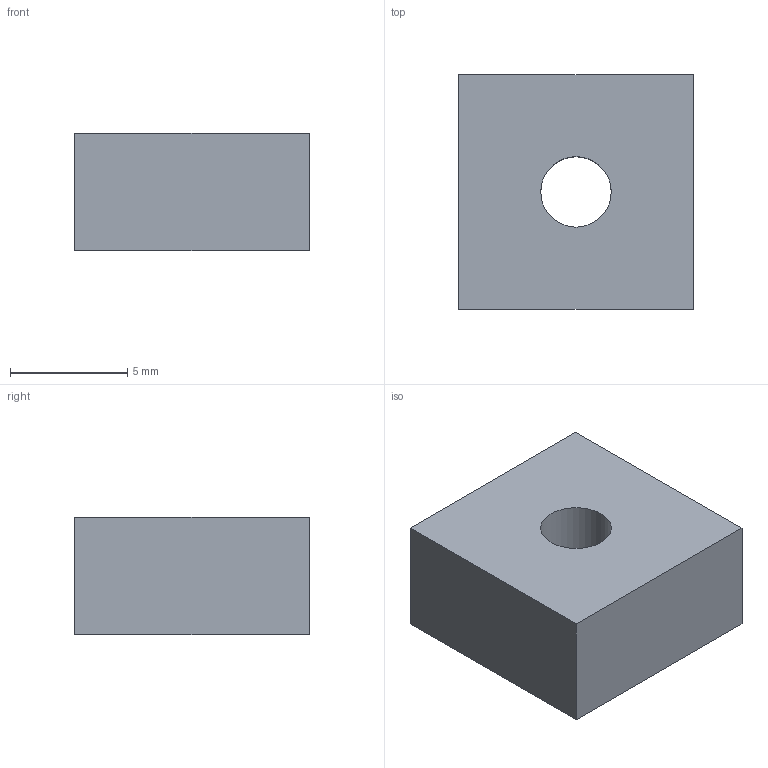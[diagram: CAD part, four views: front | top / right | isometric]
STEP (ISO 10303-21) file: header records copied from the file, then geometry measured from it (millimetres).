
FILE_DESCRIPTION( ( 'STEP AP203' ), '1' );
FILE_NAME( 'C:/NSM-06-3.stp', '2013-10-20T23:50:13', ( ' ' ), ( ' ' ), 'XStep 1.0', ' ', ' ' );
FILE_SCHEMA( ( 'CONFIG_CONTROL_DESIGN' ) );
Length unit declared in the file: metre
Products named in the file (1): 1
Bounding box: 10 x 10 x 5 mm (x, y, z)
Volume: 464.4 mm3; surface area: 433.1 mm2
Topology: 1 solids, 1 shells, 7 faces, 15 edges, 10 vertices
Faces by surface type: bspline 7
Entity records: 243 total; most frequent: CARTESIAN_POINT 63, ORIENTED_EDGE 28, DIRECTION 18, EDGE_CURVE 14, LINE 12, VECTOR 12, EDGE_LOOP 10, VERTEX_POINT 10
